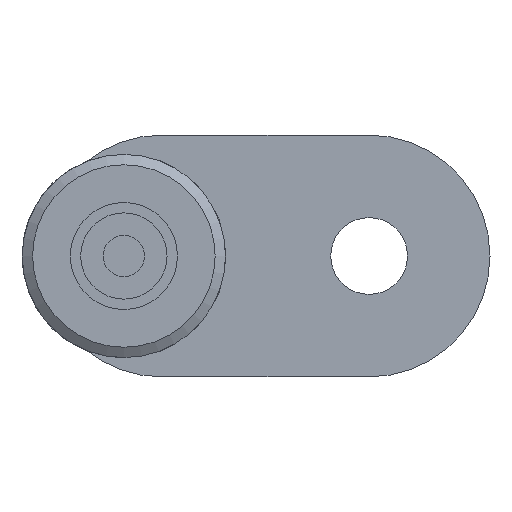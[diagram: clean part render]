
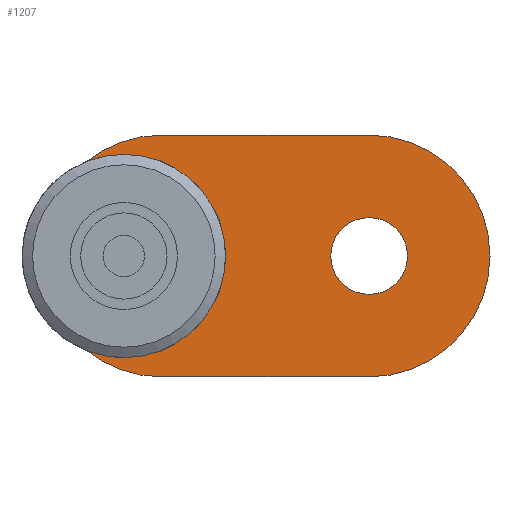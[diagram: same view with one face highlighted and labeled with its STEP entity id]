
A CAD part, front view. The second image highlights one B-rep face of the part: STEP entity #1207.
In plain terms, the highlighted planar face has unit normal (0, -1, 0) as drawn and (0, 0, -1) by its records, which use the part's own axes.
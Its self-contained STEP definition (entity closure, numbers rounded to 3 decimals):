
#136=LINE('',#1912,#144);
#139=LINE('',#1921,#147);
#144=VECTOR('',#1551,60.);
#147=VECTOR('',#1562,60.);
#221=FACE_BOUND('',#390,.T.);
#222=FACE_BOUND('',#391,.T.);
#296=FACE_OUTER_BOUND('',#389,.T.);
#389=EDGE_LOOP('',(#910,#911,#912,#913));
#390=EDGE_LOOP('',(#914));
#391=EDGE_LOOP('',(#915));
#509=CIRCLE('',#1309,11.1);
#511=CIRCLE('',#1312,8.65);
#513=CIRCLE('',#1315,35.);
#515=CIRCLE('',#1319,35.);
#597=VERTEX_POINT('',#1891);
#599=VERTEX_POINT('',#1896);
#602=VERTEX_POINT('',#1902);
#603=VERTEX_POINT('',#1904);
#605=VERTEX_POINT('',#1910);
#607=VERTEX_POINT('',#1916);
#717=EDGE_CURVE('',#597,#597,#509,.T.);
#719=EDGE_CURVE('',#599,#599,#511,.T.);
#722=EDGE_CURVE('',#603,#602,#513,.T.);
#726=EDGE_CURVE('',#602,#605,#136,.T.);
#729=EDGE_CURVE('',#605,#607,#515,.T.);
#731=EDGE_CURVE('',#607,#603,#139,.T.);
#910=ORIENTED_EDGE('',*,*,#731,.T.);
#911=ORIENTED_EDGE('',*,*,#722,.T.);
#912=ORIENTED_EDGE('',*,*,#726,.T.);
#913=ORIENTED_EDGE('',*,*,#729,.T.);
#914=ORIENTED_EDGE('',*,*,#717,.T.);
#915=ORIENTED_EDGE('',*,*,#719,.T.);
#1169=PLANE('',#1322);
#1207=ADVANCED_FACE('',(#296,#221,#222),#1169,.F.);
#1309=AXIS2_PLACEMENT_3D('',#1892,#1531,#1532);
#1312=AXIS2_PLACEMENT_3D('',#1897,#1537,#1538);
#1315=AXIS2_PLACEMENT_3D('',#1905,#1544,#1545);
#1319=AXIS2_PLACEMENT_3D('',#1918,#1557,#1558);
#1322=AXIS2_PLACEMENT_3D('',#1923,#1565,#1566);
#1531=DIRECTION('center_axis',(0.,0.,1.));
#1532=DIRECTION('ref_axis',(-1.,0.,0.));
#1537=DIRECTION('center_axis',(0.,0.,1.));
#1538=DIRECTION('ref_axis',(-1.,0.,0.));
#1544=DIRECTION('center_axis',(0.,0.,-1.));
#1545=DIRECTION('ref_axis',(0.,1.,0.));
#1551=DIRECTION('',(-1.,0.,0.));
#1557=DIRECTION('center_axis',(0.,0.,-1.));
#1558=DIRECTION('ref_axis',(0.,-1.,0.));
#1562=DIRECTION('',(1.,0.,0.));
#1565=DIRECTION('center_axis',(0.,0.,1.));
#1566=DIRECTION('ref_axis',(1.,0.,0.));
#1891=CARTESIAN_POINT('',(11.1,0.,0.));
#1892=CARTESIAN_POINT('Origin',(0.,0.,0.));
#1896=CARTESIAN_POINT('',(-62.35,0.,0.));
#1897=CARTESIAN_POINT('Origin',(-71.,0.,0.));
#1902=CARTESIAN_POINT('',(0.,-35.,0.));
#1904=CARTESIAN_POINT('',(0.,35.,0.));
#1905=CARTESIAN_POINT('Origin',(0.,0.,0.));
#1910=CARTESIAN_POINT('',(-60.,-35.,0.));
#1912=CARTESIAN_POINT('',(0.,-35.,0.));
#1916=CARTESIAN_POINT('',(-60.,35.,0.));
#1918=CARTESIAN_POINT('Origin',(-60.,0.,0.));
#1921=CARTESIAN_POINT('',(-60.,35.,0.));
#1923=CARTESIAN_POINT('Origin',(-30.,0.,0.));
